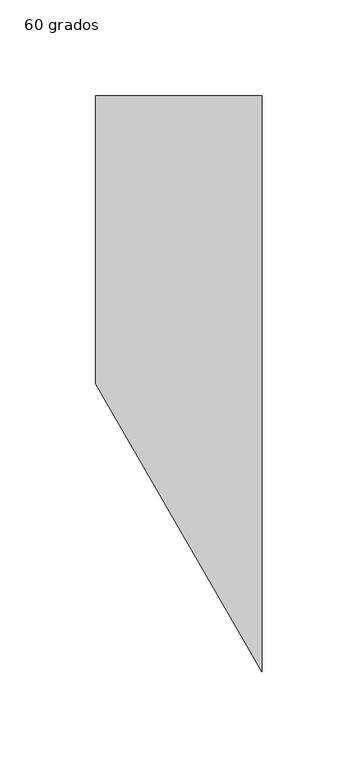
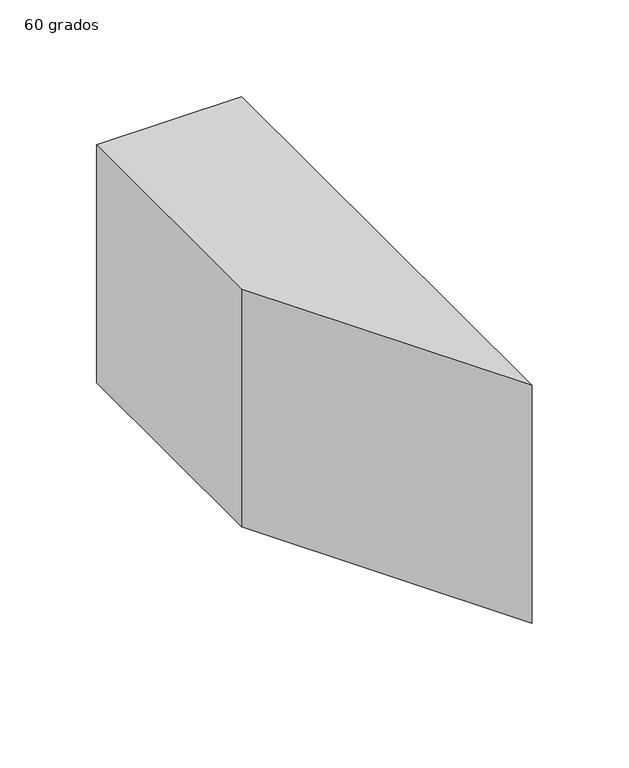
"""IFC4 building model written with IfcOpenShell, lengths in millimetres: duct fitting geometry, M_Transición rectangular - Ángulo : 60 grados."""

from ifc_helpers import new_model, si_unit, frame, origin, place, context, project, spatial, polyline, outline, extrude, source, transform, mapped, element, save


def duct_fitting_60_grados_fd550233(model_context):
    return source(origin(), model_context, "Body", "SweptSolid", [
        extrude(outline(polyline([(0.0, -75.0), (0.0, 75.0), (86.6025404, 75.0), (86.6025404, -225.0), (0.0, -75.0)])), frame((0.0, 0.0, -75.0), z_axis=(0.0, 0.0, 1.0), x_axis=(1.0, 0.0, 0.0)), (0.0, 0.0, 1.0), 150.0),
    ])


if __name__ == "__main__":
    model = new_model("IFC4")
    model_context = context("Model", 3, world=origin())
    ifc_project = project(units=[si_unit("LENGTHUNIT", "METRE", prefix="MILLI")], contexts=[model_context])
    site = spatial("IfcSite", under=ifc_project)
    building = spatial("IfcBuilding", under=site)
    placement = place(None, origin())
    duct_fitting_60_grados_shape = duct_fitting_60_grados_fd550233(model_context)
    element("IfcDuctFitting", 1, ObjectType="M_Transición rectangular - Ángulo : 60 grados", at=placement, inside=building, context=model_context, shape_type="MappedRepresentation", body=[
        mapped(duct_fitting_60_grados_shape, transform((0.0, 0.0, 0.0), x_axis=(1.0, 0.0, 0.0), y_axis=(0.0, 1.0, 0.0), z_axis=(0.0, 0.0, 1.0))),
    ])
    save(model, "model.ifc")
